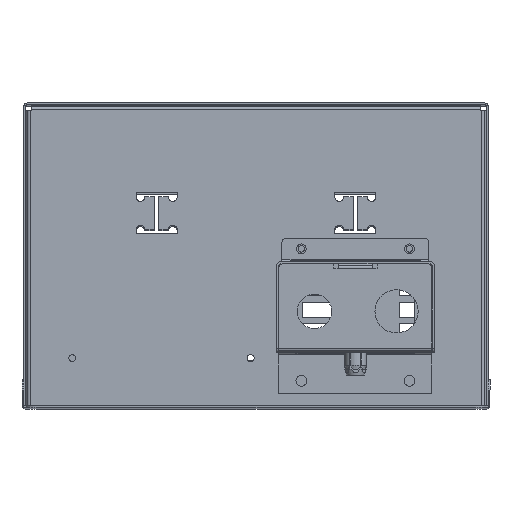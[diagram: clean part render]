
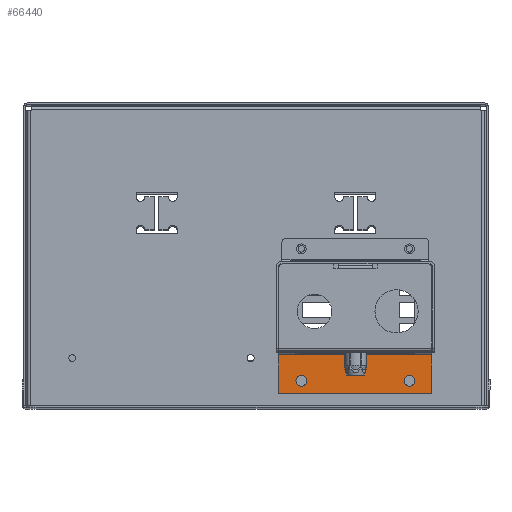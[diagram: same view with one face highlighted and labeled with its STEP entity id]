
A CAD part, top view. The second image highlights one B-rep face of the part: STEP entity #66440.
In plain terms, the highlighted planar face has unit normal (0, 0, 1).
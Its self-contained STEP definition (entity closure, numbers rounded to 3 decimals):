
#8996=LINE('',#107946,#16270);
#9003=LINE('',#107968,#16277);
#9016=LINE('',#108005,#16290);
#9019=LINE('',#108012,#16293);
#16270=VECTOR('',#81604,10.);
#16277=VECTOR('',#81625,10.);
#16290=VECTOR('',#81670,10.);
#16293=VECTOR('',#81681,10.);
#18760=PLANE('',#69188);
#19804=FACE_BOUND('',#26976,.T.);
#19805=FACE_BOUND('',#26977,.T.);
#22877=FACE_OUTER_BOUND('',#26975,.T.);
#26975=EDGE_LOOP('',(#59417,#59418,#59419,#59420));
#26976=EDGE_LOOP('',(#59421));
#26977=EDGE_LOOP('',(#59422));
#27404=CIRCLE('',#69189,2.5);
#27405=CIRCLE('',#69190,2.5);
#33226=VERTEX_POINT('',#107943);
#33227=VERTEX_POINT('',#107945);
#33234=VERTEX_POINT('',#107965);
#33235=VERTEX_POINT('',#107967);
#33244=VERTEX_POINT('',#108013);
#33245=VERTEX_POINT('',#108015);
#42007=EDGE_CURVE('',#33226,#33227,#8996,.T.);
#42019=EDGE_CURVE('',#33234,#33235,#9003,.T.);
#42037=EDGE_CURVE('',#33235,#33226,#9016,.T.);
#42040=EDGE_CURVE('',#33227,#33234,#9019,.T.);
#42041=EDGE_CURVE('',#33244,#33244,#27404,.T.);
#42042=EDGE_CURVE('',#33245,#33245,#27405,.T.);
#59417=ORIENTED_EDGE('',*,*,#42037,.F.);
#59418=ORIENTED_EDGE('',*,*,#42019,.F.);
#59419=ORIENTED_EDGE('',*,*,#42040,.F.);
#59420=ORIENTED_EDGE('',*,*,#42007,.F.);
#59421=ORIENTED_EDGE('',*,*,#42041,.T.);
#59422=ORIENTED_EDGE('',*,*,#42042,.T.);
#66440=ADVANCED_FACE('',(#22877,#19804,#19805),#18760,.T.);
#69188=AXIS2_PLACEMENT_3D('',#108011,#81679,#81680);
#69189=AXIS2_PLACEMENT_3D('',#108014,#81682,#81683);
#69190=AXIS2_PLACEMENT_3D('',#108016,#81684,#81685);
#81604=DIRECTION('',(0.,-1.,0.));
#81625=DIRECTION('',(0.,1.,0.));
#81670=DIRECTION('',(1.,0.,0.));
#81679=DIRECTION('center_axis',(0.,0.,
1.));
#81680=DIRECTION('ref_axis',(0.,1.,0.));
#81681=DIRECTION('',(-1.,0.,0.));
#81682=DIRECTION('center_axis',(0.,0.,
-1.));
#81683=DIRECTION('ref_axis',(-1.,0.,0.));
#81684=DIRECTION('center_axis',(0.,0.,
-1.));
#81685=DIRECTION('ref_axis',(-1.,0.,0.));
#107943=CARTESIAN_POINT('',(81.4,17.9,185.3));
#107945=CARTESIAN_POINT('',(81.4,-0.1,185.3));
#107946=CARTESIAN_POINT('',(81.4,-0.1,185.3));
#107965=CARTESIAN_POINT('',(10.6,-0.1,185.3));
#107967=CARTESIAN_POINT('',(10.6,17.9,185.3));
#107968=CARTESIAN_POINT('',(10.6,-0.1,185.3));
#108005=CARTESIAN_POINT('',(46.,17.9,185.3));
#108011=CARTESIAN_POINT('Origin',(46.,-0.1,185.3));
#108012=CARTESIAN_POINT('',(46.,-0.1,185.3));
#108013=CARTESIAN_POINT('',(23.5,5.9,185.3));
#108014=CARTESIAN_POINT('Origin',(21.,5.9,185.3));
#108015=CARTESIAN_POINT('',(73.5,5.9,185.3));
#108016=CARTESIAN_POINT('Origin',(71.,5.9,185.3));
